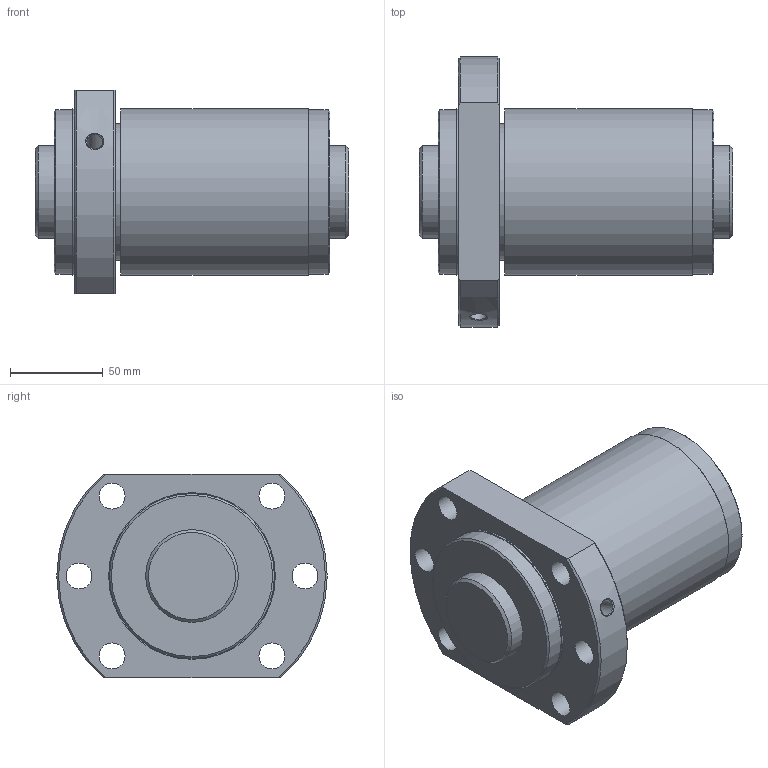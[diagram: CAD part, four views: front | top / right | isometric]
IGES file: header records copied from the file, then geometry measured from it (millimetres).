
Start section: Data from Parasolid IGES Translator 26.0.171, Copyright(c) 2006 Siemens PLM Software. All Rights Reserved.
Global section: file name: SBK5030-7.6RRG0+169LC0(0000).igs; native system: By Siemens PLM Incorporated; preprocessor: XPlus GENERIC/IGES 26.0.171; author: Noname; organization: Noname; date: 20240528.112031; units: millimetre
Bounding box: 169 x 146 x 110 mm (x, y, z)
Surface area: 132252.9 mm2 (no closed solid volume)
Topology: 0 solids, 0 shells, 37 faces, 167 edges, 143 vertices
Faces by surface type: revolution 26, extrusion 11
